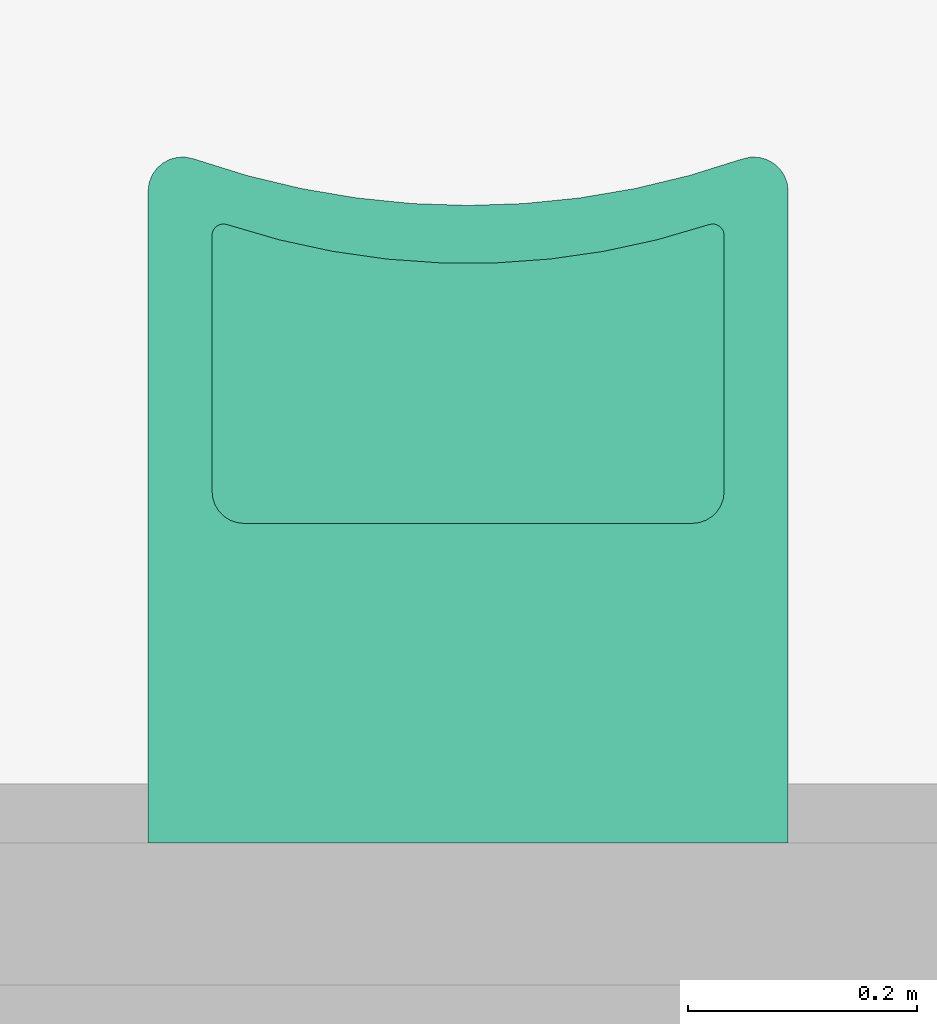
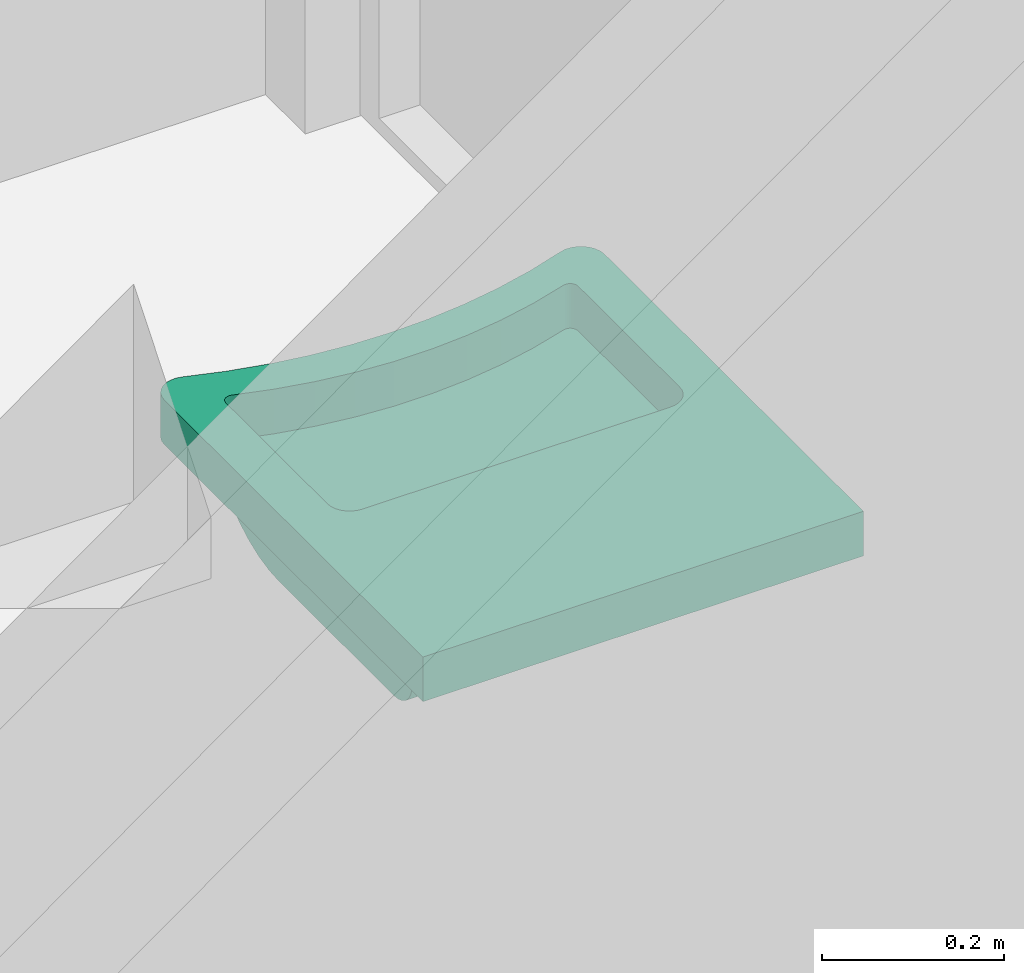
# One storey, part 33 of 37: 1 flow terminal.
"""IFC2X3 building model written with IfcOpenShell, lengths in millimetres."""

import ifcopenshell
import ifcopenshell.guid

model = None  # the IFC model being written
_history = None  # IfcOwnerHistory: only IFC2X3 demands one
_inside = {}  # id of a spatial element -> (the spatial element, [elements in it])
_under = {}  # id of a project, library or spatial element -> (it, [spatial elements below it])
_declared = {}  # id of a project -> (the project, [libraries it declares])
_typed = {}  # id of a type object -> (the type object, [elements of that type])
_made_of = {}  # id of a material, layer set ... -> (it, [elements and type objects made of it])


def new_model(schema):
    """Start an empty IFC model of exactly this schema.

    Asked for "IFC4X3", IfcOpenShell would pick the latest addendum, in which some entities
    have other attributes; the version numbers below select the first issue.
    IFC2X3 requires an IfcOwnerHistory on every rooted entity: one is made here for all.
    """
    global model, _history
    if schema == "IFC4X3":
        model = ifcopenshell.file(schema_version=(4, 3, 0, 0))
    else:
        model = ifcopenshell.file(schema=schema)
    _inside.clear()
    _under.clear()
    _declared.clear()
    _typed.clear()
    _made_of.clear()
    _history = None
    if model.schema == "IFC2X3":
        org = make("IfcOrganization", Name="unknown")
        user = make(
            "IfcPersonAndOrganization",
            ThePerson=make("IfcPerson", FamilyName="unknown"),
            TheOrganization=org,
        )
        app = make(
            "IfcApplication",
            ApplicationDeveloper=org,
            Version="unknown",
            ApplicationFullName="unknown",
            ApplicationIdentifier="unknown",
        )
        _history = make(
            "IfcOwnerHistory",
            OwningUser=user,
            OwningApplication=app,
            ChangeAction="ADDED",
            CreationDate=0,
        )
    return model


def make(cls, **values):
    """One entity of the class cls with the attributes given. An attribute that is None is left unset."""
    return model.create_entity(
        cls, **{name: value for name, value in values.items() if value is not None}
    )


def entity(cls, *values):
    """Any entity or typed value of the class cls, its attributes in the order of the schema. None: left unset."""
    e = model.create_entity(cls)
    for i, value in enumerate(values):
        if value is not None:
            e[i] = value
    return e


def rooted(cls, **values):
    """An entity with a GlobalId (a new one), such as an element, a storey or a relation."""
    return make(cls, GlobalId=ifcopenshell.guid.new(), OwnerHistory=_history, **values)


def si_unit(unit_type, name, prefix=None):
    """IfcSIUnit, for example si_unit("LENGTHUNIT", "METRE", prefix="MILLI")."""
    return make("IfcSIUnit", UnitType=unit_type, Prefix=prefix, Name=name)


def converted_unit(unit_type, name, factor, base, dimensions=None, offset=None):
    """IfcConversionBasedUnit, such as the inch: factor (a typed value) times the base unit."""
    return make(
        "IfcConversionBasedUnit"
        if offset is None
        else "IfcConversionBasedUnitWithOffset",
        ConversionOffset=offset,
        Dimensions=None
        if dimensions is None
        else entity("IfcDimensionalExponents", *dimensions),
        UnitType=unit_type,
        Name=name,
        ConversionFactor=make(
            "IfcMeasureWithUnit", ValueComponent=factor, UnitComponent=base
        ),
    )


def derived_unit(unit_type, elements):
    """IfcDerivedUnit: a product of units, each with its exponent."""
    return make(
        "IfcDerivedUnit",
        Elements=[
            make("IfcDerivedUnitElement", Unit=unit, Exponent=power)
            for unit, power in elements
        ],
        UnitType=unit_type,
    )


def assignment(units):
    """IfcUnitAssignment: the units of a project."""
    return None if units is None else make("IfcUnitAssignment", Units=units)


def point(xyz):
    """IfcCartesianPoint."""
    return None if xyz is None else make("IfcCartesianPoint", Coordinates=xyz)


def direction(xyz):
    """IfcDirection."""
    return None if xyz is None else make("IfcDirection", DirectionRatios=xyz)


def frame(location, z_axis=None, x_axis=None):
    """IfcAxis2Placement3D, a coordinate frame: its origin and axes. An axis left out is left unset."""
    return make(
        "IfcAxis2Placement3D",
        Location=point(location),
        Axis=direction(z_axis),
        RefDirection=direction(x_axis),
    )


def frame_2d(location, x_axis=None):
    """IfcAxis2Placement2D, a coordinate frame in the plane: its origin and x axis."""
    return make(
        "IfcAxis2Placement2D", Location=point(location), RefDirection=direction(x_axis)
    )


def origin():
    """The frame at (0, 0, 0) with its axes left unset."""
    return frame((0.0, 0.0, 0.0))


def origin_with_axes():
    """The frame at (0, 0, 0) with the z axis (0, 0, 1) and the x axis (1, 0, 0) written out."""
    return frame((0.0, 0.0, 0.0), z_axis=(0.0, 0.0, 1.0), x_axis=(1.0, 0.0, 0.0))


def place(relative_to, where):
    """IfcLocalPlacement: puts the frame where relative to a parent placement (None: the world)."""
    return make(
        "IfcLocalPlacement", PlacementRelTo=relative_to, RelativePlacement=where
    )


def context(
    kind, dimensions, precision=None, world=None, true_north=None, identifier=None
):
    """IfcGeometricRepresentationContext, for example the 3D "Model" context."""
    return make(
        "IfcGeometricRepresentationContext",
        ContextIdentifier=identifier,
        ContextType=kind,
        CoordinateSpaceDimension=dimensions,
        Precision=precision,
        WorldCoordinateSystem=world,
        TrueNorth=true_north,
    )


def subcontext(parent, identifier, kind, view, scale=None):
    """IfcGeometricRepresentationSubContext, for example "Body" below "Model"."""
    return make(
        "IfcGeometricRepresentationSubContext",
        ContextIdentifier=identifier,
        ContextType=kind,
        ParentContext=parent,
        TargetScale=scale,
        TargetView=view,
    )


def project(units=None, contexts=None):
    """IfcProject with its units and contexts."""
    return rooted(
        "IfcProject",
        Name="project",
        RepresentationContexts=contexts,
        UnitsInContext=assignment(units),
    )


def spatial(cls, under=None, at=None, **own):
    """A site, building, storey or space (cls), placed at a placement, below another one or the project."""
    s = rooted(cls, ObjectPlacement=at, **own)
    if under is not None:
        _under.setdefault(under.id(), (under, []))[1].append(s)
    return s


def polyline(points):
    """IfcPolyline through the points."""
    return make("IfcPolyline", Points=[point(p) for p in points])


def circle_curve(where, radius):
    """IfcCircle in the frame where."""
    return make("IfcCircle", Position=where, Radius=radius)


def parameter(value):
    """IfcParameterValue: where a trimmed curve begins or ends, as a parameter of its basis curve."""
    return model.create_entity("IfcParameterValue", value)


def trimmed(basis, trim1, trim2, sense, master):
    """IfcTrimmedCurve: the piece of a basis curve between two trims."""
    return make(
        "IfcTrimmedCurve",
        BasisCurve=basis,
        Trim1=trim1,
        Trim2=trim2,
        SenseAgreement=sense,
        MasterRepresentation=master,
    )


def segment(curve, same_sense, transition):
    """IfcCompositeCurveSegment."""
    return make(
        "IfcCompositeCurveSegment",
        Transition=transition,
        SameSense=same_sense,
        ParentCurve=curve,
    )


def composite_curve(segments, self_intersect=None):
    """IfcCompositeCurve: segments joined end to end."""
    return make("IfcCompositeCurve", Segments=segments, SelfIntersect=self_intersect)


def outline(outer, holes=None, kind="AREA"):
    """IfcArbitraryClosedProfileDef: a profile drawn as a closed curve; with holes, ...WithVoids."""
    if holes is None:
        return make("IfcArbitraryClosedProfileDef", ProfileType=kind, OuterCurve=outer)
    return make(
        "IfcArbitraryProfileDefWithVoids",
        ProfileType=kind,
        OuterCurve=outer,
        InnerCurves=holes,
    )


def extrude(swept, where, along, depth):
    """IfcExtrudedAreaSolid: the profile swept, set in the frame where, extruded along a direction by depth."""
    return make(
        "IfcExtrudedAreaSolid",
        SweptArea=swept,
        Position=where,
        ExtrudedDirection=direction(along),
        Depth=depth,
    )


def shape(context_of_items, identifier, shape_type, items):
    """IfcShapeRepresentation: the items that make up one representation, for example the "Body"."""
    return make(
        "IfcShapeRepresentation",
        ContextOfItems=context_of_items,
        RepresentationIdentifier=identifier,
        RepresentationType=shape_type,
        Items=items,
    )


def source(mapping_origin, context_of_items, identifier, shape_type, items):
    """IfcRepresentationMap: a shape defined once, which mapped items show again and again."""
    return make(
        "IfcRepresentationMap",
        MappingOrigin=mapping_origin,
        MappedRepresentation=shape(context_of_items, identifier, shape_type, items),
    )


def transform(
    local_origin,
    x_axis=None,
    y_axis=None,
    z_axis=None,
    scale=None,
    scale2=None,
    scale3=None,
    uniform=True,
):
    """IfcCartesianTransformationOperator3D, or its non-uniform kind. x_axis, y_axis, z_axis: its Axis1, 2, 3."""
    if uniform:
        return make(
            "IfcCartesianTransformationOperator3D",
            Axis1=direction(x_axis),
            Axis2=direction(y_axis),
            LocalOrigin=point(local_origin),
            Scale=scale,
            Axis3=direction(z_axis),
        )
    return make(
        "IfcCartesianTransformationOperator3DnonUniform",
        Axis1=direction(x_axis),
        Axis2=direction(y_axis),
        LocalOrigin=point(local_origin),
        Scale=scale,
        Axis3=direction(z_axis),
        Scale2=scale2,
        Scale3=scale3,
    )


def mapped(mapping_source, mapping_target):
    """IfcMappedItem: shows the shape of a source again, moved by a transform."""
    return make(
        "IfcMappedItem", MappingSource=mapping_source, MappingTarget=mapping_target
    )


def material(Name=None, Category=None):
    """IfcMaterial."""
    return make("IfcMaterial", Name=Name, Category=Category)


def made_of(thing, what):
    """Note that an element or type object is made of a material, layer set ...; save() writes the relation."""
    if what is not None:
        _made_of.setdefault(what.id(), (what, []))[1].append(thing)
    return thing


def type_object(cls, material=None, **own):
    """A type object (cls), such as IfcWallType, which elements share."""
    return made_of(rooted(cls, **own), material)


def element(
    cls,
    number,
    at=None,
    inside=None,
    cuts=None,
    type_object=None,
    material=None,
    context=None,
    identifier="Body",
    shape_type=None,
    held_by="IfcProductDefinitionShape",
    body=None,
    shapes=None,
    **own,
):
    """One element of the class cls, such as IfcWall. Its Tag is "e" and its number.

    at: its placement. inside: the storey or other place that contains it. cuts: it is an
    opening in that element (IfcRelVoidsElement). A single representation is given by context,
    identifier, shape_type and body (its items); several are given by shapes. held_by: the class
    of the entity that holds the representations. save() writes the other relations.
    """
    e = rooted(cls, Tag="e%d" % number, ObjectPlacement=at, **own)
    if body is not None:
        shapes = [shape(context, identifier, shape_type, body)]
    if shapes is not None:
        e.Representation = make(held_by, Representations=shapes)
    if inside is not None:
        _inside.setdefault(inside.id(), (inside, []))[1].append(e)
    if cuts is not None:
        rooted(
            "IfcRelVoidsElement", RelatingBuildingElement=cuts, RelatedOpeningElement=e
        )
    if type_object is not None:
        _typed.setdefault(type_object.id(), (type_object, []))[1].append(e)
    return made_of(e, material)


def aggregate(whole, parts):
    """IfcRelAggregates: a whole, such as a stair, and the parts it consists of."""
    return rooted("IfcRelAggregates", RelatingObject=whole, RelatedObjects=parts)


def save(model, path):
    """Write the relations noted so far, then the file.

    IfcRelAggregates (storeys below a building ...), IfcRelContainedInSpatialStructure (elements
    in a storey), IfcRelDefinesByType, IfcRelAssociatesMaterial and IfcRelDeclares: one each for
    every whole, place, type object, material and project.
    """
    for whole, parts in _under.values():
        aggregate(whole, parts)
    for where, things in _inside.values():
        rooted(
            "IfcRelContainedInSpatialStructure",
            RelatedElements=things,
            RelatingStructure=where,
        )
    for kind, things in _typed.values():
        rooted("IfcRelDefinesByType", RelatedObjects=things, RelatingType=kind)
    for what, things in _made_of.values():
        rooted("IfcRelAssociatesMaterial", RelatedObjects=things, RelatingMaterial=what)
    for by, libraries in _declared.values():
        rooted("IfcRelDeclares", RelatingContext=by, RelatedDefinitions=libraries)
    model.write(path)


model = new_model("IFC2X3")

# Units and contexts
model_context = context("Model", 3, precision=0.01, world=frame((0.0, 4.29681676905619e-09, 0.0)), true_north=direction((4.01073788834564e-13, 1.0)))
plan_context = context("Plan", 3, precision=0.01, world=frame((0.0, 4.29681676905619e-09, 0.0)), true_north=direction((4.01073788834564e-13, 1.0)))
body_context = subcontext(model_context, "Body", "Model", "MODEL_VIEW")
ifc_project = project(units=[converted_unit("PLANEANGLEUNIT", "DEGREE", entity("IfcPositiveLengthMeasure", 0.0174532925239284), si_unit("PLANEANGLEUNIT", "RADIAN"), dimensions=[0, 0, 0, 0, 0, 0, 0]), si_unit("AREAUNIT", "SQUARE_METRE"), si_unit("LENGTHUNIT", "METRE", prefix="MILLI"), si_unit("MASSUNIT", "GRAM", prefix="KILO"), si_unit("POWERUNIT", "WATT"), si_unit("PRESSUREUNIT", "PASCAL"), si_unit("FORCEUNIT", "NEWTON", prefix="KILO"), si_unit("ELECTRICVOLTAGEUNIT", "VOLT"), si_unit("ELECTRICCURRENTUNIT", "AMPERE"), si_unit("THERMODYNAMICTEMPERATUREUNIT", "DEGREE_CELSIUS"), si_unit("TIMEUNIT", "SECOND"), si_unit("VOLUMEUNIT", "CUBIC_METRE"), derived_unit("LINEARVELOCITYUNIT", [(si_unit("LENGTHUNIT", "METRE"), 1), (si_unit("TIMEUNIT", "SECOND"), -1)]), derived_unit("VOLUMETRICFLOWRATEUNIT", [(si_unit("VOLUMEUNIT", "CUBIC_METRE"), 1), (si_unit("TIMEUNIT", "SECOND"), -1)]), derived_unit("THERMALTRANSMITTANCEUNIT", [(si_unit("POWERUNIT", "WATT"), 1), (si_unit("THERMODYNAMICTEMPERATUREUNIT", "KELVIN"), -1), (si_unit("AREAUNIT", "SQUARE_METRE"), -1)]), derived_unit("SOUNDPRESSUREUNIT", [(si_unit("PRESSUREUNIT", "PASCAL"), 1)])], contexts=[model_context, plan_context])

# Site, building, storey
site_placement = place(None, origin_with_axes())
site = spatial("IfcSite", under=ifc_project, at=site_placement, Name="ENGM", CompositionType="ELEMENT")
building_placement = place(site_placement, origin_with_axes())
building = spatial("IfcBuilding", under=site, at=building_placement, Name="TS", CompositionType="ELEMENT")
storey_placement = place(building_placement, frame((0.0, 0.0, 210900.0), z_axis=(0.0, 0.0, 1.0), x_axis=(1.0, 0.0, 0.0)))
storey = spatial("IfcBuildingStorey", under=building, at=storey_placement, Name="Nivå F", CompositionType="ELEMENT", Elevation=210900.0)

# Flow terminal
ifc_material = material(Name="NSW - white våtrom")
distribution_element_type = type_object("IfcDistributionElementType", Name="A313 - HC Vask 3D:A313 - HC Vask - 560 x 600 mm", material=ifc_material)
shared_shape = source(origin(), body_context, "Body", "SweptSolid", [
    extrude(outline(composite_curve([segment(polyline([(-283.900277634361, -49.0), (154.23374074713, -49.0)]), True, "CONTINUOUS"), segment(polyline([(154.23374074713, -49.0), (154.23374074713, 6.0)]), True, "CONTINUOUS"), segment(trimmed(circle_curve(frame_2d((114.23374074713, 6.0), x_axis=(-1.0, 0.0)), 40.0), [parameter(180.0)], [parameter(269.999999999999)], True, "PARAMETER"), True, "CONTINUOUS"), segment(polyline([(114.23374074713, 46.0), (-138.800944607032, 46.0)]), True, "CONTINUOUS"), segment(trimmed(circle_curve(frame_2d((-138.800944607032, -112.309560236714), x_axis=(-1.0, 0.0)), 158.309560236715), [parameter(270.0)], [parameter(336.427454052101)], True, "PARAMETER"), True, "CONTINUOUS")], self_intersect=False)), frame((-109.0, 319.6939679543, 691.0), z_axis=(1.0, 0.0, 0.0), x_axis=(0.0, -1.0, 0.0)), (0.0, 0.0, 1.0), 467.999999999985),
    extrude(outline(composite_curve([segment(polyline([(-280.0, -336.744766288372), (280.0, -336.744766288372)]), True, "CONTINUOUS"), segment(polyline([(280.0, -336.744766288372), (280.0, -158.087065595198)]), True, "CONTINUOUS"), segment(polyline([(280.0, -158.087065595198), (280.0, 233.255233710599)]), True, "CONTINUOUS"), segment(trimmed(circle_curve(frame_2d((250.0, 233.255233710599), x_axis=(1.0, 0.0)), 30.0), [parameter(0.0)], [parameter(109.25756493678)], True, "PARAMETER"), True, "CONTINUOUS"), segment(trimmed(circle_curve(frame_2d((0.0, 948.841731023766), x_axis=(1.0, 0.0)), 728.000023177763), [parameter(250.742435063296)], [parameter(289.25756493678)], True, "PARAMETER"), False, "CONTINUOUS"), segment(trimmed(circle_curve(frame_2d((-250.0, 233.255233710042), x_axis=(1.0, 0.0)), 30.0), [parameter(70.7424350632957)], [parameter(180.0)], True, "PARAMETER"), True, "CONTINUOUS"), segment(polyline([(-280.0, 233.255233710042), (-280.0, -158.087065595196)]), True, "CONTINUOUS"), segment(polyline([(-280.0, -158.087065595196), (-280.0, -336.744766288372)]), True, "CONTINUOUS")], self_intersect=False), holes=[composite_curve([segment(polyline([(196.0, -57.2870655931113), (-196.0, -57.2870655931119)]), True, "CONTINUOUS"), segment(trimmed(circle_curve(frame_2d((-196.0, -29.2870655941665), x_axis=(1.0, 0.0)), 27.9999999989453), [parameter(180.000000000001)], [parameter(270.0)], True, "PARAMETER"), False, "CONTINUOUS"), segment(polyline([(-224.0, -29.2870655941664), (-224.0, 194.59947929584)]), True, "CONTINUOUS"), segment(trimmed(circle_curve(frame_2d((-214.0, 194.59947929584), x_axis=(1.0, 0.0)), 10.0), [parameter(71.7126409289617)], [parameter(180.0)], True, "PARAMETER"), False, "CONTINUOUS"), segment(trimmed(circle_curve(frame_2d((-3.83332121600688e-09, 842.154906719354), x_axis=(1.0, 0.0)), 672.000023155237), [parameter(251.712640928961)], [parameter(288.287359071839)], True, "PARAMETER"), True, "CONTINUOUS"), segment(trimmed(circle_curve(frame_2d((214.0, 194.599479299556), x_axis=(1.0, 0.0)), 9.99999999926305), [parameter(4.07110999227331e-13)], [parameter(108.28735907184)], True, "PARAMETER"), False, "CONTINUOUS"), segment(polyline([(224.0, 194.599479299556), (224.0, -29.287065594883)]), True, "CONTINUOUS"), segment(trimmed(circle_curve(frame_2d((196.0, -29.287065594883), x_axis=(1.0, 0.0)), 27.9999999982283), [parameter(270.0)], [parameter(4.07110999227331e-13)], True, "PARAMETER"), False, "CONTINUOUS")], self_intersect=False)]), frame((125.0, 398.994766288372, 740.0)), (0.0, 0.0, 1.0), 60.0000000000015),
])
flow_terminal_placement = place(storey_placement, frame((533183.987499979, 440911.250000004, 0.0), z_axis=(0.0, 0.0, 1.0), x_axis=(1.0, 0.0, 0.0)))
element("IfcFlowTerminal", 1, at=flow_terminal_placement, inside=storey, type_object=distribution_element_type, material=ifc_material, Name="A313 - HC Vask 3D:A313 - HC Vask - 560 x 600 mm", ObjectType="A313 - HC Vask 3D:A313 - HC Vask - 560 x 600 mm", context=body_context, shape_type="MappedRepresentation", body=[
    mapped(shared_shape, transform((0.0, 0.0, 0.0), scale=1.0)),
])

save(model, "model.ifc")
